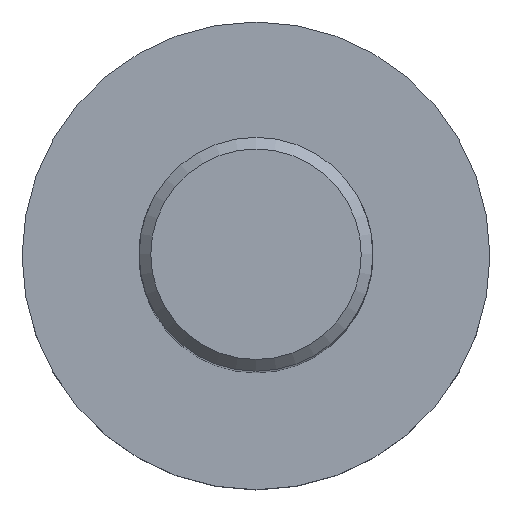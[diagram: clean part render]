
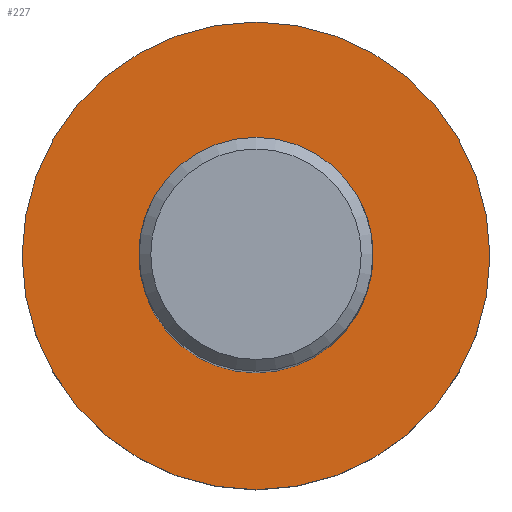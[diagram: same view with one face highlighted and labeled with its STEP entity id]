
A CAD part, top view. The second image highlights one B-rep face of the part: STEP entity #227.
In plain terms, the highlighted planar face has unit normal (0, 0, 1).
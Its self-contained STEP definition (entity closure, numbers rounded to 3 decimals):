
#51=FACE_BOUND('',#87,.T.);
#55=PLANE('',#274);
#69=FACE_OUTER_BOUND('',#86,.T.);
#86=EDGE_LOOP('',(#211));
#87=EDGE_LOOP('',(#212));
#95=CIRCLE('',#258,3.);
#102=CIRCLE('',#273,6.);
#112=VERTEX_POINT('',#555);
#122=VERTEX_POINT('',#793);
#135=EDGE_CURVE('',#112,#112,#95,.T.);
#151=EDGE_CURVE('',#122,#122,#102,.T.);
#211=ORIENTED_EDGE('',*,*,#151,.T.);
#212=ORIENTED_EDGE('',*,*,#135,.F.);
#227=ADVANCED_FACE('',(#69,#51),#55,.T.);
#258=AXIS2_PLACEMENT_3D('',#557,#299,#300);
#273=AXIS2_PLACEMENT_3D('',#794,#335,#336);
#274=AXIS2_PLACEMENT_3D('',#796,#338,#339);
#299=DIRECTION('center_axis',(0.,0.,1.));
#300=DIRECTION('ref_axis',(1.,0.,0.));
#335=DIRECTION('center_axis',(0.,0.,1.));
#336=DIRECTION('ref_axis',(1.,0.,0.));
#338=DIRECTION('center_axis',(0.,0.,1.));
#339=DIRECTION('ref_axis',(1.,0.,0.));
#555=CARTESIAN_POINT('',(0.,3.,39.));
#557=CARTESIAN_POINT('Origin',(0.,0.,39.));
#793=CARTESIAN_POINT('',(0.,6.,39.));
#794=CARTESIAN_POINT('Origin',(0.,0.,39.));
#796=CARTESIAN_POINT('Origin',(0.,-3.,39.));
